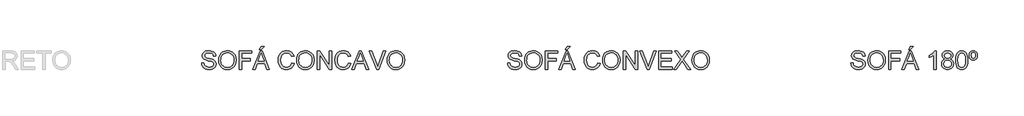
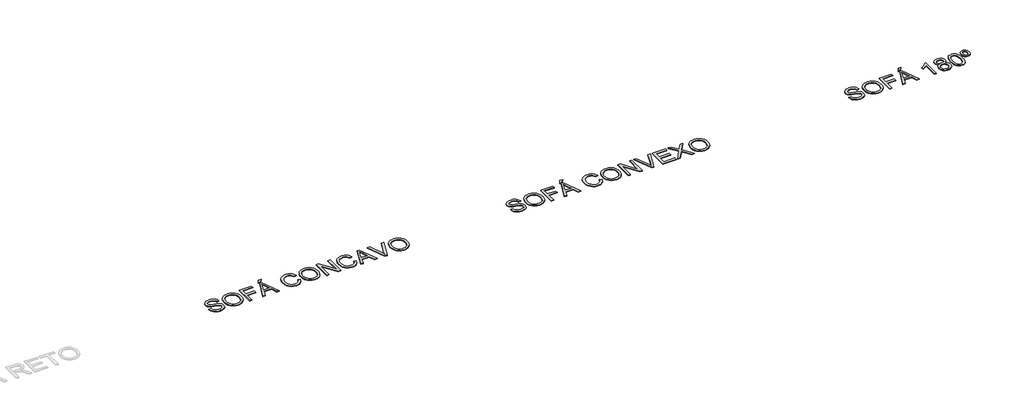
# One storey, part 3 of 4: 3 proxies.
"""IFC4 building model written with IfcOpenShell, lengths in millimetres."""

from ifc_helpers import new_model, si_unit, origin, origin_with_axes, place, context, project, spatial, polyline, outline, extrude, element, save

model = new_model("IFC4")

# Units and contexts
model_context = context("Model", 3, world=origin())
ifc_project = project(units=[si_unit("LENGTHUNIT", "METRE", prefix="MILLI")], contexts=[model_context])

# Site, building, storey
site = spatial("IfcSite", under=ifc_project)
building = spatial("IfcBuilding", under=site)
storey = spatial("IfcBuildingStorey", under=building, Name="Marelli - Linha BLEND - Planta Baixa", Elevation=0.0)

# Proxies
placement = place(None, origin())
element("IfcBuildingElementProxy", 1, Name="300mm Arial", ObjectType="300mm Arial", at=placement, inside=storey, context=model_context, shape_type="SweptSolid", body=[
    extrude(outline(polyline([(-10760.3247924, 5823.0292498), (-10722.6536761, 5823.0292498), (-10718.3310627, 5802.1243554), (-10710.5135703, 5785.3213453), (-10698.3182821, 5771.9856229), (-10680.8622815, 5761.482592), (-10659.5251257, 5754.667578), (-10635.6863724, 5752.3959067), (-10614.6987046, 5754.115755), (-10596.322999, 5759.2753), (-10581.4329752, 5767.4422803), (-10570.9023531, 5778.1844346), (-10564.6391621, 5790.5176784), (-10562.5514318, 5803.4579276), (-10564.1149303, 5816.067083), (-10568.8054257, 5826.9655871), (-10578.3335694, 5836.2638046), (-10594.4100126, 5844.0720999), (-10649.2612181, 5858.4562859), (-10685.2676683, 5867.9752325), (-10708.3062783, 5877.0343267), (-10727.059063, 5889.7078614), (-10740.3488001, 5905.0669347), (-10748.26746, 5922.7804528), (-10750.9070133, 5942.5173218), (-10747.6420606, 5964.5810445), (-10737.8472025, 5985.154845), (-10721.7799564, 6002.5924516), (-10699.6978396, 6015.2475923), (-10673.1919419, 6022.945523), (-10643.8533527, 6025.5114999), (-10612.0683484, 6022.8259614), (-10584.2564695, 6014.7693457), (-10561.4109976, 6001.5071997), (-10544.525214, 5983.2050705), (-10533.8382421, 5961.0033921), (-10529.589205, 5936.0425987), (-10567.2603213, 5936.0425987), (-10574.1765029, 5958.5201886), (-10588.5974771, 5974.7437846), (-10611.1302493, 5984.5662339), (-10642.3818248, 5987.8403836), (-10674.3691642, 5984.6030221), (-10696.3133252, 5974.8909374), (-10709.0052541, 5960.5987219), (-10713.235897, 5943.6209678), (-10710.2376588, 5929.1448113), (-10701.242944, 5917.5013461), (-10679.9793647, 5907.0902857), (-10639.7330744, 5896.458496), (-10598.1991971, 5886.3601352), (-10573.0728569, 5877.5493615), (-10551.5977454, 5863.8825453), (-10536.6157511, 5847.0151559), (-10527.8141744, 5827.131134), (-10524.8803155, 5804.4144208), (-10528.2556328, 5781.1918699), (-10538.3815847, 5759.3488764), (-10554.844304, 5740.5501065), (-10577.2299234, 5726.460226), (-10604.1496884, 5717.6586493), (-10634.2148445, 5714.7247904), (-10671.1226056, 5717.8885756), (-10701.5004614, 5727.379931), (-10725.6978996, 5743.235645), (-10744.0644082, 5765.4925057), (-10755.8550262, 5792.6054088), (-10760.3247924, 5823.0292498)])), origin_with_axes(), (0.0, 0.0, 1.0), 10.0),
    extrude(outline(polyline([(-10482.5003097, 5866.1450196), (-10479.989515, 5901.4938808), (-10472.4571312, 5932.786843), (-10459.9031581, 5960.0239063), (-10442.3275958, 5983.2050705), (-10420.7835064, 6001.7141334), (-10396.3239523, 6014.9348926), (-10368.9489333, 6022.8673481), (-10338.6584495, 6025.5114999), (-10299.1295292, 6020.545093), (-10263.6840989, 6005.6458722), (-10234.2535393, 5981.8623012), (-10212.7692308, 5950.2428437), (-10199.6358436, 5912.31421), (-10195.2580478, 5869.6031104), (-10199.8657698, 5826.3217936), (-10213.6889358, 5787.859731), (-10235.9641906, 5756.1850913), (-10265.9281791, 5733.266043), (-10301.0701067, 5719.3601035), (-10338.8791787, 5714.7247904), (-10379.0151044, 5719.8475472), (-10414.6628697, 5735.2158175), (-10444.019853, 5759.4408469), (-10465.2834323, 5791.1338808), (-10478.1960903, 5827.6001836), (-10482.5003097, 5866.1450196)]), holes=[polyline([(-10444.8291933, 5865.7771376), (-10442.9460974, 5840.8025487), (-10437.2968095, 5818.6330599), (-10427.8813297, 5799.2686714), (-10414.6996579, 5782.7093831), (-10398.6760978, 5769.4472372), (-10380.7349527, 5759.9742758), (-10360.8762228, 5754.290499), (-10339.0999079, 5752.3959067), (-10316.9511126, 5754.3088931), (-10296.8578578, 5760.0478522), (-10278.8201438, 5769.6127841), (-10262.8379703, 5783.0036887), (-10249.7528676, 5799.9124649), (-10240.4063657, 5820.0310115), (-10234.7984645, 5843.3593285), (-10232.9291641, 5869.897416), (-10236.1297375, 5903.2459188), (-10245.7314576, 5932.0694731), (-10261.486004, 5955.641512), (-10283.1450565, 5973.2354684), (-10309.2738752, 5984.1891548), (-10338.4377203, 5987.8403836), (-10359.4575778, 5986.0814478), (-10378.9599221, 5980.8046405), (-10396.9447531, 5972.0099615), (-10413.412071, 5959.697411), (-10427.157062, 5943.2737792), (-10436.9749127, 5922.1458563), (-10442.8656232, 5896.3136425), (-10444.8291933, 5865.7771376)])]), origin_with_axes(), (0.0, 0.0, 1.0), 10.0),
    extrude(outline(polyline([(-10143.4602629, 5719.4336799), (-10143.4602629, 6020.8026104), (-9940.9780128, 6020.8026104), (-9940.9780128, 5983.1314941), (-10105.7891466, 5983.1314941), (-10105.7891466, 5893.6625928), (-9964.5224604, 5893.6625928), (-9964.5224604, 5855.9914765), (-10105.7891466, 5855.9914765), (-10105.7891466, 5719.4336799), (-10143.4602629, 5719.4336799)])), origin_with_axes(), (0.0, 0.0, 1.0), 10.0),
    extrude(outline(polyline([(-9924.2761702, 5719.4336799), (-9803.9787577, 6020.8026104), (-9771.8994478, 6020.8026104), (-9651.6020353, 5719.4336799), (-9691.4068672, 5719.4336799), (-9725.9141984, 5813.6114707), (-9850.0375835, 5813.6114707), (-9884.4713383, 5719.4336799), (-9924.2761702, 5719.4336799)]), holes=[polyline([(-9836.2052205, 5851.282587), (-9739.672985, 5851.282587), (-9766.8226762, 5925.3740208), (-9787.9391028, 5983.1314941), (-9806.7010845, 5931.8487439), (-9836.2052205, 5851.282587)])]), origin_with_axes(), (0.0, 0.0, 1.0), 10.0),
    extrude(outline(polyline([(-9813.8379952, 6039.6381685), (-9785.584658, 6096.144843), (-9738.4957626, 6096.144843), (-9785.584658, 6039.6381685), (-9813.8379952, 6039.6381685)])), origin_with_axes(), (0.0, 0.0, 1.0), 10.0),
    extrude(outline(polyline([(-9281.7334774, 5826.5609169), (-9244.0623611, 5816.8488323), (-9251.51657, 5793.4216469), (-9261.4447854, 5772.9513132), (-9273.8470071, 5755.4378309), (-9288.7232353, 5740.8812003), (-9305.7377776, 5729.4377709), (-9324.5549416, 5721.2638929), (-9345.1747275, 5716.359566), (-9367.5971351, 5714.7247904), (-9411.292319, 5719.6728032), (-9445.9927882, 5734.5168417), (-9472.5906565, 5758.7418711), (-9491.9780376, 5791.8328566), (-9503.8146408, 5830.7363776), (-9507.7601752, 5872.3990135), (-9503.299606, 5916.3425179), (-9489.9178985, 5954.2895457), (-9468.3140283, 5985.0352834), (-9439.1869713, 6007.3749176), (-9404.642852, 6020.9773543), (-9366.7877947, 6025.5114999), (-9325.4838437, 6019.6437821), (-9307.5151075, 6012.3091348), (-9291.3351975, 6002.0406286), (-9277.2108281, 5989.1095765), (-9265.4087139, 5973.7872914), (-9248.7712506, 5935.9690223), (-9286.4423669, 5926.9927016), (-9299.5021778, 5954.4642896), (-9317.3444545, 5973.3090448), (-9340.1899264, 5984.2075489), (-9368.2593227, 5987.8403836), (-9400.6145441, 5983.8120758), (-9427.1940183, 5971.7271522), (-9447.3631487, 5952.8548059), (-9460.4873389, 5928.4642296), (-9467.6886289, 5900.8914741), (-9470.0890589, 5872.4725899), (-9467.2471705, 5837.6709532), (-9458.7215053, 5807.578206), (-9444.1901665, 5783.3439795), (-9423.3312573, 5766.1179051), (-9398.3244787, 5755.8264063), (-9371.3495314, 5752.3959067), (-9339.9048179, 5757.068008), (-9313.7024228, 5771.0843121), (-9293.9195685, 5794.297666), (-9281.7334774, 5826.5609169)])), origin_with_axes(), (0.0, 0.0, 1.0), 10.0),
    extrude(outline(polyline([(-9206.3912448, 5866.1450196), (-9203.8804502, 5901.4938808), (-9196.3480663, 5932.786843), (-9183.7940932, 5960.0239063), (-9166.2185309, 5983.2050705), (-9144.6744416, 6001.7141334), (-9120.2148874, 6014.9348926), (-9092.8398684, 6022.8673481), (-9062.5493847, 6025.5114999), (-9023.0204643, 6020.545093), (-8987.5750341, 6005.6458722), (-8958.1444744, 5981.8623012), (-8936.6601659, 5950.2428437), (-8923.5267787, 5912.31421), (-8919.1489829, 5869.6031104), (-8923.7567049, 5826.3217936), (-8937.5798709, 5787.859731), (-8959.8551257, 5756.1850913), (-8989.8191142, 5733.266043), (-9024.9610418, 5719.3601035), (-9062.7701139, 5714.7247904), (-9102.9060395, 5719.8475472), (-9138.5538049, 5735.2158175), (-9167.9107881, 5759.4408469), (-9189.1743674, 5791.1338808), (-9202.0870254, 5827.6001836), (-9206.3912448, 5866.1450196)]), holes=[polyline([(-9168.7201285, 5865.7771376), (-9166.8370325, 5840.8025487), (-9161.1877446, 5818.6330599), (-9151.7722648, 5799.2686714), (-9138.5905931, 5782.7093831), (-9122.5670329, 5769.4472372), (-9104.6258879, 5759.9742758), (-9084.7671579, 5754.290499), (-9062.9908431, 5752.3959067), (-9040.8420477, 5754.3088931), (-9020.748793, 5760.0478522), (-9002.7110789, 5769.6127841), (-8986.7289055, 5783.0036887), (-8973.6438027, 5799.9124649), (-8964.2973008, 5820.0310115), (-8958.6893996, 5843.3593285), (-8956.8200993, 5869.897416), (-8960.0206726, 5903.2459188), (-8969.6223927, 5932.0694731), (-8985.3769391, 5955.641512), (-9007.0359916, 5973.2354684), (-9033.1648103, 5984.1891548), (-9062.3286555, 5987.8403836), (-9083.348513, 5986.0814478), (-9102.8508572, 5980.8046405), (-9120.8356883, 5972.0099615), (-9137.3030061, 5959.697411), (-9151.0479971, 5943.2737792), (-9160.8658479, 5922.1458563), (-9166.7565583, 5896.3136425), (-9168.7201285, 5865.7771376)])]), origin_with_axes(), (0.0, 0.0, 1.0), 10.0),
    extrude(outline(polyline([(-8867.351198, 5719.4336799), (-8867.351198, 6020.8026104), (-8827.0313314, 6020.8026104), (-8669.5778374, 5782.0471955), (-8669.5778374, 6020.8026104), (-8631.9067211, 6020.8026104), (-8631.9067211, 5719.4336799), (-8672.2265878, 5719.4336799), (-8829.6800817, 5958.2626712), (-8829.6800817, 5719.4336799), (-8867.351198, 5719.4336799)])), origin_with_axes(), (0.0, 0.0, 1.0), 10.0),
    extrude(outline(polyline([(-8354.0822384, 5826.5609169), (-8316.4111221, 5816.8488323), (-8323.865331, 5793.4216469), (-8333.7935463, 5772.9513132), (-8346.1957681, 5755.4378309), (-8361.0719963, 5740.8812003), (-8378.0865385, 5729.4377709), (-8396.9037026, 5721.2638929), (-8417.5234884, 5716.359566), (-8439.945896, 5714.7247904), (-8483.64108, 5719.6728032), (-8518.3415492, 5734.5168417), (-8544.9394175, 5758.7418711), (-8564.3267986, 5791.8328566), (-8576.1634018, 5830.7363776), (-8580.1089362, 5872.3990135), (-8575.648367, 5916.3425179), (-8562.2666594, 5954.2895457), (-8540.6627893, 5985.0352834), (-8511.5357323, 6007.3749176), (-8476.9916129, 6020.9773543), (-8439.1365556, 6025.5114999), (-8397.8326046, 6019.6437821), (-8379.8638684, 6012.3091348), (-8363.6839584, 6002.0406286), (-8349.5595891, 5989.1095765), (-8337.7574748, 5973.7872914), (-8321.1200116, 5935.9690223), (-8358.7911279, 5926.9927016), (-8371.8509387, 5954.4642896), (-8389.6932155, 5973.3090448), (-8412.5386874, 5984.2075489), (-8440.6080836, 5987.8403836), (-8472.9633051, 5983.8120758), (-8499.5427793, 5971.7271522), (-8519.7119096, 5952.8548059), (-8532.8360998, 5928.4642296), (-8540.0373899, 5900.8914741), (-8542.4378199, 5872.4725899), (-8539.5959315, 5837.6709532), (-8531.0702662, 5807.578206), (-8516.5389274, 5783.3439795), (-8495.6800183, 5766.1179051), (-8470.6732397, 5755.8264063), (-8443.6982924, 5752.3959067), (-8412.2535788, 5757.068008), (-8386.0511837, 5771.0843121), (-8366.2683294, 5794.297666), (-8354.0822384, 5826.5609169)])), origin_with_axes(), (0.0, 0.0, 1.0), 10.0),
    extrude(outline(polyline([(-8299.7092795, 5719.4336799), (-8179.411867, 6020.8026104), (-8147.3325571, 6020.8026104), (-8027.0351446, 5719.4336799), (-8066.8399765, 5719.4336799), (-8101.3473077, 5813.6114707), (-8225.4706928, 5813.6114707), (-8259.9044476, 5719.4336799), (-8299.7092795, 5719.4336799)]), holes=[polyline([(-8211.6383298, 5851.282587), (-8115.1060943, 5851.282587), (-8142.2557855, 5925.3740208), (-8163.3722121, 5983.1314941), (-8182.1341938, 5931.8487439), (-8211.6383298, 5851.282587)])]), origin_with_axes(), (0.0, 0.0, 1.0), 10.0),
    extrude(outline(polyline([(-7897.7614115, 5719.4336799), (-8017.690942, 6020.8026104), (-7977.3710753, 6020.8026104), (-7897.0992239, 5803.6786568), (-7880.8388398, 5754.7503515), (-7864.7991848, 5803.6786568), (-7784.3066042, 6020.8026104), (-7743.9867376, 6020.8026104), (-7858.8394965, 5719.4336799), (-7897.7614115, 5719.4336799)])), origin_with_axes(), (0.0, 0.0, 1.0), 10.0),
    extrude(outline(polyline([(-7723.0910402, 5866.1450196), (-7720.5802456, 5901.4938808), (-7713.0478618, 5932.786843), (-7700.4938887, 5960.0239063), (-7682.9183264, 5983.2050705), (-7661.374237, 6001.7141334), (-7636.9146829, 6014.9348926), (-7609.5396639, 6022.8673481), (-7579.2491801, 6025.5114999), (-7539.7202597, 6020.545093), (-7504.2748295, 6005.6458722), (-7474.8442699, 5981.8623012), (-7453.3599614, 5950.2428437), (-7440.2265741, 5912.31421), (-7435.8487784, 5869.6031104), (-7440.4565004, 5826.3217936), (-7454.2796664, 5787.859731), (-7476.5549212, 5756.1850913), (-7506.5189097, 5733.266043), (-7541.6608373, 5719.3601035), (-7579.4699093, 5714.7247904), (-7619.605835, 5719.8475472), (-7655.2536003, 5735.2158175), (-7684.6105835, 5759.4408469), (-7705.8741629, 5791.1338808), (-7718.7868209, 5827.6001836), (-7723.0910402, 5866.1450196)]), holes=[polyline([(-7685.4199239, 5865.7771376), (-7683.536828, 5840.8025487), (-7677.8875401, 5818.6330599), (-7668.4720603, 5799.2686714), (-7655.2903885, 5782.7093831), (-7639.2668284, 5769.4472372), (-7621.3256833, 5759.9742758), (-7601.4669534, 5754.290499), (-7579.6906385, 5752.3959067), (-7557.5418431, 5754.3088931), (-7537.4485884, 5760.0478522), (-7519.4108743, 5769.6127841), (-7503.4287009, 5783.0036887), (-7490.3435982, 5799.9124649), (-7480.9970963, 5820.0310115), (-7475.3891951, 5843.3593285), (-7473.5198947, 5869.897416), (-7476.7204681, 5903.2459188), (-7486.3221881, 5932.0694731), (-7502.0767346, 5955.641512), (-7523.735787, 5973.2354684), (-7549.8646058, 5984.1891548), (-7579.0284509, 5987.8403836), (-7600.0483084, 5986.0814478), (-7619.5506527, 5980.8046405), (-7637.5354837, 5972.0099615), (-7654.0028015, 5959.697411), (-7667.7477926, 5943.2737792), (-7677.5656433, 5922.1458563), (-7683.4563538, 5896.3136425), (-7685.4199239, 5865.7771376)])]), origin_with_axes(), (0.0, 0.0, 1.0), 10.0),
])
element("IfcBuildingElementProxy", 2, Name="300mm Arial", ObjectType="300mm Arial", at=placement, inside=storey, context=model_context, shape_type="SweptSolid", body=[
    extrude(outline(polyline([(-5750.9070133, 5823.0292498), (-5713.235897, 5823.0292498), (-5708.9132836, 5802.1243554), (-5701.0957912, 5785.3213453), (-5688.900503, 5771.9856229), (-5671.4445024, 5761.482592), (-5650.1073467, 5754.667578), (-5626.2685934, 5752.3959067), (-5605.2809255, 5754.115755), (-5586.9052199, 5759.2753), (-5572.0151961, 5767.4422803), (-5561.484574, 5778.1844346), (-5555.221383, 5790.5176784), (-5553.1336527, 5803.4579276), (-5554.6971512, 5816.067083), (-5559.3876466, 5826.9655871), (-5568.9157903, 5836.2638046), (-5584.9922335, 5844.0720999), (-5639.843439, 5858.4562859), (-5675.8498893, 5867.9752325), (-5698.8884992, 5877.0343267), (-5717.6412839, 5889.7078614), (-5730.931021, 5905.0669347), (-5738.8496809, 5922.7804528), (-5741.4892343, 5942.5173218), (-5738.2242815, 5964.5810445), (-5728.4294234, 5985.154845), (-5712.3621773, 6002.5924516), (-5690.2800605, 6015.2475923), (-5663.7741628, 6022.945523), (-5634.4355737, 6025.5114999), (-5602.6505693, 6022.8259614), (-5574.8386904, 6014.7693457), (-5551.9932185, 6001.5071997), (-5535.107435, 5983.2050705), (-5524.420463, 5961.0033921), (-5520.171426, 5936.0425987), (-5557.8425423, 5936.0425987), (-5564.7587238, 5958.5201886), (-5579.179698, 5974.7437846), (-5601.7124702, 5984.5662339), (-5632.9640457, 5987.8403836), (-5664.9513852, 5984.6030221), (-5686.8955462, 5974.8909374), (-5699.587475, 5960.5987219), (-5703.8181179, 5943.6209678), (-5700.8198797, 5929.1448113), (-5691.8251649, 5917.5013461), (-5670.5615856, 5907.0902857), (-5630.3152953, 5896.458496), (-5588.7814181, 5886.3601352), (-5563.6550778, 5877.5493615), (-5542.1799663, 5863.8825453), (-5527.1979721, 5847.0151559), (-5518.3963953, 5827.131134), (-5515.4625364, 5804.4144208), (-5518.8378537, 5781.1918699), (-5528.9638056, 5759.3488764), (-5545.4265249, 5740.5501065), (-5567.8121443, 5726.460226), (-5594.7319093, 5717.6586493), (-5624.7970654, 5714.7247904), (-5661.7048266, 5717.8885756), (-5692.0826823, 5727.379931), (-5716.2801205, 5743.235645), (-5734.6466291, 5765.4925057), (-5746.4372471, 5792.6054088), (-5750.9070133, 5823.0292498)])), origin_with_axes(), (0.0, 0.0, 1.0), 10.0),
    extrude(outline(polyline([(-5473.0825306, 5866.1450196), (-5470.571736, 5901.4938808), (-5463.0393521, 5932.786843), (-5450.485379, 5960.0239063), (-5432.9098167, 5983.2050705), (-5411.3657274, 6001.7141334), (-5386.9061732, 6014.9348926), (-5359.5311542, 6022.8673481), (-5329.2406705, 6025.5114999), (-5289.7117501, 6020.545093), (-5254.2663198, 6005.6458722), (-5224.8357602, 5981.8623012), (-5203.3514517, 5950.2428437), (-5190.2180645, 5912.31421), (-5185.8402687, 5869.6031104), (-5190.4479907, 5826.3217936), (-5204.2711567, 5787.859731), (-5226.5464115, 5756.1850913), (-5256.5104, 5733.266043), (-5291.6523276, 5719.3601035), (-5329.4613997, 5714.7247904), (-5369.5973253, 5719.8475472), (-5405.2450907, 5735.2158175), (-5434.6020739, 5759.4408469), (-5455.8656532, 5791.1338808), (-5468.7783112, 5827.6001836), (-5473.0825306, 5866.1450196)]), holes=[polyline([(-5435.4114143, 5865.7771376), (-5433.5283183, 5840.8025487), (-5427.8790304, 5818.6330599), (-5418.4635506, 5799.2686714), (-5405.2818789, 5782.7093831), (-5389.2583187, 5769.4472372), (-5371.3171737, 5759.9742758), (-5351.4584437, 5754.290499), (-5329.6821289, 5752.3959067), (-5307.5333335, 5754.3088931), (-5287.4400788, 5760.0478522), (-5269.4023647, 5769.6127841), (-5253.4201913, 5783.0036887), (-5240.3350885, 5799.9124649), (-5230.9885866, 5820.0310115), (-5225.3806854, 5843.3593285), (-5223.511385, 5869.897416), (-5226.7119584, 5903.2459188), (-5236.3136785, 5932.0694731), (-5252.0682249, 5955.641512), (-5273.7272774, 5973.2354684), (-5299.8560961, 5984.1891548), (-5329.0199413, 5987.8403836), (-5350.0397988, 5986.0814478), (-5369.542143, 5980.8046405), (-5387.5269741, 5972.0099615), (-5403.9942919, 5959.697411), (-5417.7392829, 5943.2737792), (-5427.5571337, 5922.1458563), (-5433.4478441, 5896.3136425), (-5435.4114143, 5865.7771376)])]), origin_with_axes(), (0.0, 0.0, 1.0), 10.0),
    extrude(outline(polyline([(-5134.0424838, 5719.4336799), (-5134.0424838, 6020.8026104), (-4931.5602337, 6020.8026104), (-4931.5602337, 5983.1314941), (-5096.3713675, 5983.1314941), (-5096.3713675, 5893.6625928), (-4955.1046814, 5893.6625928), (-4955.1046814, 5855.9914765), (-5096.3713675, 5855.9914765), (-5096.3713675, 5719.4336799), (-5134.0424838, 5719.4336799)])), origin_with_axes(), (0.0, 0.0, 1.0), 10.0),
    extrude(outline(polyline([(-4914.8583911, 5719.4336799), (-4794.5609787, 6020.8026104), (-4762.4816687, 6020.8026104), (-4642.1842563, 5719.4336799), (-4681.9890881, 5719.4336799), (-4716.4964193, 5813.6114707), (-4840.6198045, 5813.6114707), (-4875.0535592, 5719.4336799), (-4914.8583911, 5719.4336799)]), holes=[polyline([(-4826.7874414, 5851.282587), (-4730.2552059, 5851.282587), (-4757.4048972, 5925.3740208), (-4778.5213237, 5983.1314941), (-4797.2833054, 5931.8487439), (-4826.7874414, 5851.282587)])]), origin_with_axes(), (0.0, 0.0, 1.0), 10.0),
    extrude(outline(polyline([(-4804.4202161, 6039.6381685), (-4776.1668789, 6096.144843), (-4729.0779835, 6096.144843), (-4776.1668789, 6039.6381685), (-4804.4202161, 6039.6381685)])), origin_with_axes(), (0.0, 0.0, 1.0), 10.0),
    extrude(outline(polyline([(-4272.3156983, 5826.5609169), (-4234.644582, 5816.8488323), (-4242.0987909, 5793.4216469), (-4252.0270063, 5772.9513132), (-4264.429228, 5755.4378309), (-4279.3054562, 5740.8812003), (-4296.3199985, 5729.4377709), (-4315.1371626, 5721.2638929), (-4335.7569484, 5716.359566), (-4358.179356, 5714.7247904), (-4401.87454, 5719.6728032), (-4436.5750092, 5734.5168417), (-4463.1728774, 5758.7418711), (-4482.5602586, 5791.8328566), (-4494.3968618, 5830.7363776), (-4498.3423962, 5872.3990135), (-4493.881827, 5916.3425179), (-4480.5001194, 5954.2895457), (-4458.8962492, 5985.0352834), (-4429.7691923, 6007.3749176), (-4395.2250729, 6020.9773543), (-4357.3700156, 6025.5114999), (-4316.0660646, 6019.6437821), (-4298.0973284, 6012.3091348), (-4281.9174184, 6002.0406286), (-4267.793049, 5989.1095765), (-4255.9909348, 5973.7872914), (-4239.3534716, 5935.9690223), (-4277.0245879, 5926.9927016), (-4290.0843987, 5954.4642896), (-4307.9266755, 5973.3090448), (-4330.7721474, 5984.2075489), (-4358.8415436, 5987.8403836), (-4391.1967651, 5983.8120758), (-4417.7762392, 5971.7271522), (-4437.9453696, 5952.8548059), (-4451.0695598, 5928.4642296), (-4458.2708498, 5900.8914741), (-4460.6712798, 5872.4725899), (-4457.8293914, 5837.6709532), (-4449.3037262, 5807.578206), (-4434.7723874, 5783.3439795), (-4413.9134783, 5766.1179051), (-4388.9066996, 5755.8264063), (-4361.9317523, 5752.3959067), (-4330.4870388, 5757.068008), (-4304.2846437, 5771.0843121), (-4284.5017894, 5794.297666), (-4272.3156983, 5826.5609169)])), origin_with_axes(), (0.0, 0.0, 1.0), 10.0),
    extrude(outline(polyline([(-4196.9734657, 5866.1450196), (-4194.4626711, 5901.4938808), (-4186.9302872, 5932.786843), (-4174.3763142, 5960.0239063), (-4156.8007518, 5983.2050705), (-4135.2566625, 6001.7141334), (-4110.7971083, 6014.9348926), (-4083.4220894, 6022.8673481), (-4053.1316056, 6025.5114999), (-4013.6026852, 6020.545093), (-3978.157255, 6005.6458722), (-3948.7266954, 5981.8623012), (-3927.2423868, 5950.2428437), (-3914.1089996, 5912.31421), (-3909.7312039, 5869.6031104), (-3914.3389259, 5826.3217936), (-3928.1620918, 5787.859731), (-3950.4373466, 5756.1850913), (-3980.4013351, 5733.266043), (-4015.5432627, 5719.3601035), (-4053.3523348, 5714.7247904), (-4093.4882605, 5719.8475472), (-4129.1360258, 5735.2158175), (-4158.493009, 5759.4408469), (-4179.7565883, 5791.1338808), (-4192.6692464, 5827.6001836), (-4196.9734657, 5866.1450196)]), holes=[polyline([(-4159.3023494, 5865.7771376), (-4157.4192534, 5840.8025487), (-4151.7699655, 5818.6330599), (-4142.3544857, 5799.2686714), (-4129.172814, 5782.7093831), (-4113.1492538, 5769.4472372), (-4095.2081088, 5759.9742758), (-4075.3493788, 5754.290499), (-4053.573064, 5752.3959067), (-4031.4242686, 5754.3088931), (-4011.3310139, 5760.0478522), (-3993.2932998, 5769.6127841), (-3977.3111264, 5783.0036887), (-3964.2260237, 5799.9124649), (-3954.8795217, 5820.0310115), (-3949.2716206, 5843.3593285), (-3947.4023202, 5869.897416), (-3950.6028935, 5903.2459188), (-3960.2046136, 5932.0694731), (-3975.9591601, 5955.641512), (-3997.6182125, 5973.2354684), (-4023.7470312, 5984.1891548), (-4052.9108764, 5987.8403836), (-4073.9307339, 5986.0814478), (-4093.4330782, 5980.8046405), (-4111.4179092, 5972.0099615), (-4127.885227, 5959.697411), (-4141.6302181, 5943.2737792), (-4151.4480688, 5922.1458563), (-4157.3387793, 5896.3136425), (-4159.3023494, 5865.7771376)])]), origin_with_axes(), (0.0, 0.0, 1.0), 10.0),
    extrude(outline(polyline([(-3857.933419, 5719.4336799), (-3857.933419, 6020.8026104), (-3817.6135523, 6020.8026104), (-3660.1600583, 5782.0471955), (-3660.1600583, 6020.8026104), (-3622.488942, 6020.8026104), (-3622.488942, 5719.4336799), (-3662.8088087, 5719.4336799), (-3820.2623026, 5958.2626712), (-3820.2623026, 5719.4336799), (-3857.933419, 5719.4336799)])), origin_with_axes(), (0.0, 0.0, 1.0), 10.0),
    extrude(outline(polyline([(-3467.5370457, 5719.4336799), (-3587.4665761, 6020.8026104), (-3547.1467094, 6020.8026104), (-3466.8748581, 5803.6786568), (-3450.6144739, 5754.7503515), (-3434.5748189, 5803.6786568), (-3354.0822384, 6020.8026104), (-3313.7623717, 6020.8026104), (-3428.6151306, 5719.4336799), (-3467.5370457, 5719.4336799)])), origin_with_axes(), (0.0, 0.0, 1.0), 10.0),
    extrude(outline(polyline([(-3278.7400057, 5719.4336799), (-3278.7400057, 6020.8026104), (-3062.131087, 6020.8026104), (-3062.131087, 5983.1314941), (-3241.0688894, 5983.1314941), (-3241.0688894, 5893.6625928), (-3071.5488661, 5893.6625928), (-3071.5488661, 5855.9914765), (-3241.0688894, 5855.9914765), (-3241.0688894, 5757.1047962), (-3057.4221974, 5757.1047962), (-3057.4221974, 5719.4336799), (-3278.7400057, 5719.4336799)])), origin_with_axes(), (0.0, 0.0, 1.0), 10.0),
    extrude(outline(polyline([(-3033.8777498, 5719.4336799), (-2917.7006157, 5883.6562026), (-3015.0421916, 6020.8026104), (-2969.8662826, 6020.8026104), (-2915.0518653, 5943.6209678), (-2896.5841892, 5913.5282206), (-2874.9527278, 5944.1360026), (-2820.7269217, 6020.8026104), (-2774.8888252, 6020.8026104), (-2872.2304011, 5883.2147442), (-2756.053267, 5719.4336799), (-2801.229176, 5719.4336799), (-2878.6315478, 5828.6210561), (-2894.7447792, 5851.282587), (-2912.4766913, 5826.4137641), (-2988.0396532, 5719.4336799), (-3033.8777498, 5719.4336799)])), origin_with_axes(), (0.0, 0.0, 1.0), 10.0),
    extrude(outline(polyline([(-2732.5088193, 5866.1450196), (-2729.9980247, 5901.4938808), (-2722.4656408, 5932.786843), (-2709.9116678, 5960.0239063), (-2692.3361054, 5983.2050705), (-2670.7920161, 6001.7141334), (-2646.3324619, 6014.9348926), (-2618.957443, 6022.8673481), (-2588.6669592, 6025.5114999), (-2549.1380388, 6020.545093), (-2513.6926086, 6005.6458722), (-2484.262049, 5981.8623012), (-2462.7777404, 5950.2428437), (-2449.6443532, 5912.31421), (-2445.2665575, 5869.6031104), (-2449.8742795, 5826.3217936), (-2463.6974454, 5787.859731), (-2485.9727002, 5756.1850913), (-2515.9366887, 5733.266043), (-2551.0786163, 5719.3601035), (-2588.8876884, 5714.7247904), (-2629.0236141, 5719.8475472), (-2664.6713794, 5735.2158175), (-2694.0283626, 5759.4408469), (-2715.2919419, 5791.1338808), (-2728.2046, 5827.6001836), (-2732.5088193, 5866.1450196)]), holes=[polyline([(-2694.837703, 5865.7771376), (-2692.954607, 5840.8025487), (-2687.3053191, 5818.6330599), (-2677.8898393, 5799.2686714), (-2664.7081676, 5782.7093831), (-2648.6846074, 5769.4472372), (-2630.7434624, 5759.9742758), (-2610.8847324, 5754.290499), (-2589.1084176, 5752.3959067), (-2566.9596222, 5754.3088931), (-2546.8663675, 5760.0478522), (-2528.8286534, 5769.6127841), (-2512.84648, 5783.0036887), (-2499.7613773, 5799.9124649), (-2490.4148753, 5820.0310115), (-2484.8069742, 5843.3593285), (-2482.9376738, 5869.897416), (-2486.1382471, 5903.2459188), (-2495.7399672, 5932.0694731), (-2511.4945137, 5955.641512), (-2533.1535661, 5973.2354684), (-2559.2823848, 5984.1891548), (-2588.44623, 5987.8403836), (-2609.4660875, 5986.0814478), (-2628.9684318, 5980.8046405), (-2646.9532628, 5972.0099615), (-2663.4205806, 5959.697411), (-2677.1655717, 5943.2737792), (-2686.9834224, 5922.1458563), (-2692.8741329, 5896.3136425), (-2694.837703, 5865.7771376)])]), origin_with_axes(), (0.0, 0.0, 1.0), 10.0),
])
element("IfcBuildingElementProxy", 3, Name="300mm Arial", ObjectType="300mm Arial", at=placement, inside=storey, context=model_context, shape_type="SweptSolid", body=[
    extrude(outline(polyline([(-129.3335943, 5823.0292498), (-91.662478, 5823.0292498), (-87.3398645, 5802.1243554), (-79.5223721, 5785.3213453), (-67.327084, 5771.9856229), (-49.8710833, 5761.482592), (-28.5339276, 5754.667578), (-4.6951743, 5752.3959067), (16.2924935, 5754.115755), (34.6681992, 5759.2753), (49.5582229, 5767.4422803), (60.088845, 5778.1844346), (66.352036, 5790.5176784), (68.4397663, 5803.4579276), (66.8762678, 5816.067083), (62.1857724, 5826.9655871), (52.6576287, 5836.2638046), (36.5811855, 5844.0720999), (-18.2700199, 5858.4562859), (-54.2764702, 5867.9752325), (-77.3150802, 5877.0343267), (-96.0678649, 5889.7078614), (-109.3576019, 5905.0669347), (-117.2762619, 5922.7804528), (-119.9158152, 5942.5173218), (-116.6508625, 5964.5810445), (-106.8560044, 5985.154845), (-90.7887582, 6002.5924516), (-68.7066415, 6015.2475923), (-42.2007437, 6022.945523), (-12.8621546, 6025.5114999), (18.9228498, 6022.8259614), (46.7347286, 6014.7693457), (69.5802005, 6001.5071997), (86.4659841, 5983.2050705), (97.152956, 5961.0033921), (101.4019931, 5936.0425987), (63.7308768, 5936.0425987), (56.8146953, 5958.5201886), (42.3937211, 5974.7437846), (19.8609489, 5984.5662339), (-11.3906266, 5987.8403836), (-43.3779661, 5984.6030221), (-65.3221271, 5974.8909374), (-78.014056, 5960.5987219), (-82.2446989, 5943.6209678), (-79.2464606, 5929.1448113), (-70.2517459, 5917.5013461), (-48.9881665, 5907.0902857), (-8.7418763, 5896.458496), (32.792001, 5886.3601352), (57.9183413, 5877.5493615), (79.3934527, 5863.8825453), (94.375447, 5847.0151559), (103.1770237, 5827.131134), (106.1108826, 5804.4144208), (102.7355653, 5781.1918699), (92.6096134, 5759.3488764), (76.1468941, 5740.5501065), (53.7612747, 5726.460226), (26.8415097, 5717.6586493), (-3.2236463, 5714.7247904), (-40.1314075, 5717.8885756), (-70.5092633, 5727.379931), (-94.7067015, 5743.235645), (-113.0732101, 5765.4925057), (-124.863828, 5792.6054088), (-129.3335943, 5823.0292498)])), origin_with_axes(), (0.0, 0.0, 1.0), 10.0),
    extrude(outline(polyline([(148.4908885, 5866.1450196), (151.0016831, 5901.4938808), (158.5340669, 5932.786843), (171.08804, 5960.0239063), (188.6636023, 5983.2050705), (210.2076917, 6001.7141334), (234.6672458, 6014.9348926), (262.0422648, 6022.8673481), (292.3327486, 6025.5114999), (331.861669, 6020.545093), (367.3070992, 6005.6458722), (396.7376588, 5981.8623012), (418.2219673, 5950.2428437), (431.3553546, 5912.31421), (435.7331503, 5869.6031104), (431.1254283, 5826.3217936), (417.3022624, 5787.859731), (395.0270075, 5756.1850913), (365.063019, 5733.266043), (329.9210914, 5719.3601035), (292.1120194, 5714.7247904), (251.9760937, 5719.8475472), (216.3283284, 5735.2158175), (186.9713452, 5759.4408469), (165.7077659, 5791.1338808), (152.7951078, 5827.6001836), (148.4908885, 5866.1450196)]), holes=[polyline([(186.1620048, 5865.7771376), (188.0451007, 5840.8025487), (193.6943886, 5818.6330599), (203.1098684, 5799.2686714), (216.2915402, 5782.7093831), (232.3151003, 5769.4472372), (250.2562454, 5759.9742758), (270.1149753, 5754.290499), (291.8912902, 5752.3959067), (314.0400856, 5754.3088931), (334.1333403, 5760.0478522), (352.1710544, 5769.6127841), (368.1532278, 5783.0036887), (381.2383305, 5799.9124649), (390.5848325, 5820.0310115), (396.1927336, 5843.3593285), (398.062034, 5869.897416), (394.8614606, 5903.2459188), (385.2597406, 5932.0694731), (369.5051941, 5955.641512), (347.8461417, 5973.2354684), (321.717323, 5984.1891548), (292.5534778, 5987.8403836), (271.5336203, 5986.0814478), (252.031276, 5980.8046405), (234.046445, 5972.0099615), (217.5791272, 5959.697411), (203.8341361, 5943.2737792), (194.0162854, 5922.1458563), (188.1255749, 5896.3136425), (186.1620048, 5865.7771376)])]), origin_with_axes(), (0.0, 0.0, 1.0), 10.0),
    extrude(outline(polyline([(487.5309352, 5719.4336799), (487.5309352, 6020.8026104), (690.0131854, 6020.8026104), (690.0131854, 5983.1314941), (525.2020515, 5983.1314941), (525.2020515, 5893.6625928), (666.4687377, 5893.6625928), (666.4687377, 5855.9914765), (525.2020515, 5855.9914765), (525.2020515, 5719.4336799), (487.5309352, 5719.4336799)])), origin_with_axes(), (0.0, 0.0, 1.0), 10.0),
    extrude(outline(polyline([(706.715028, 5719.4336799), (827.0124404, 6020.8026104), (859.0917504, 6020.8026104), (979.3891628, 5719.4336799), (939.5843309, 5719.4336799), (905.0769998, 5813.6114707), (780.9536146, 5813.6114707), (746.5198598, 5719.4336799), (706.715028, 5719.4336799)]), holes=[polyline([(794.7859776, 5851.282587), (891.3182131, 5851.282587), (864.1685219, 5925.3740208), (843.0520954, 5983.1314941), (824.2901136, 5931.8487439), (794.7859776, 5851.282587)])]), origin_with_axes(), (0.0, 0.0, 1.0), 10.0),
    extrude(outline(polyline([(817.1532029, 6039.6381685), (845.4065401, 6096.144843), (892.4954355, 6096.144843), (845.4065401, 6039.6381685), (817.1532029, 6039.6381685)])), origin_with_axes(), (0.0, 0.0, 1.0), 10.0),
    extrude(outline(polyline([(1264.497709, 5719.4336799), (1226.8265927, 5719.4336799), (1226.8265927, 5954.2895457), (1191.1420392, 5928.8688998), (1151.4843601, 5909.8494006), (1151.4843601, 5945.4603778), (1181.0712696, 5961.5552151), (1206.7034476, 5980.7034729), (1226.9093662, 6001.0657413), (1240.2174974, 6020.8026104), (1264.497709, 6020.8026104), (1264.497709, 5719.4336799)])), origin_with_axes(), (0.0, 0.0, 1.0), 10.0),
    extrude(outline(polyline([(1408.854604, 5885.4220362), (1388.6854736, 5895.35485), (1374.5312138, 5908.819331), (1366.1710955, 5925.5395677), (1363.3843893, 5945.2396486), (1364.9019026, 5960.6033204), (1369.4544423, 5974.6886023), (1377.0420084, 5987.4954942), (1387.664601, 5999.0239963), (1400.8117838, 6008.5521399), (1415.9731206, 6015.3579569), (1452.3382558, 6020.8026104), (1488.9241202, 6015.2291982), (1504.2510038, 6008.2624329), (1517.6005217, 5998.5089615), (1528.4162524, 5986.7551317), (1536.1417743, 5973.7872914), (1540.7770874, 5959.6054405), (1542.3221918, 5944.209579), (1539.5722739, 5925.1440946), (1531.3225201, 5908.7089665), (1517.4809601, 5895.3272589), (1497.9556232, 5885.4220362), (1521.1413859, 5873.4750684), (1538.0179725, 5855.8811119), (1548.3094713, 5833.4862955), (1551.7399709, 5807.1367476), (1550.0385167, 5788.3471747), (1544.934154, 5771.1211003), (1536.4268828, 5755.4585243), (1524.5167032, 5741.3594468), (1509.8290146, 5729.7067846), (1492.9892162, 5721.3834545), (1473.9973082, 5716.3894564), (1452.8532906, 5714.7247904), (1431.7092729, 5716.3963542), (1412.7173649, 5721.4110457), (1395.8775666, 5729.7688647), (1381.1898779, 5741.4698114), (1369.2796983, 5755.6677572), (1360.7724272, 5771.5165734), (1355.6680645, 5789.0162601), (1353.9666103, 5808.1668172), (1357.5350656, 5835.5372376), (1368.2404317, 5858.0516157), (1385.5308855, 5874.9373993), (1408.854604, 5885.4220362)]), holes=[polyline([(1391.6377266, 5809.4911924), (1397.9285087, 5781.1274905), (1406.6381149, 5768.9597935), (1420.1853694, 5759.9006994), (1436.4089654, 5754.2721049), (1453.1475962, 5752.3959067), (1478.7889712, 5756.3414411), (1498.0291996, 5768.1780443), (1510.0589408, 5786.1030945), (1514.0688546, 5808.31397), (1509.9301821, 5830.9019245), (1497.5141648, 5849.2224478), (1477.832478, 5861.3625537), (1451.8967974, 5865.4092556), (1426.6141073, 5861.417736), (1407.567017, 5849.443177), (1395.6200492, 5831.4721416), (1391.6377266, 5809.4911924)]), polyline([(1401.0555057, 5944.1360026), (1404.3940348, 5927.6916774), (1414.4096221, 5914.5582902), (1430.807962, 5905.9498515), (1453.294749, 5903.0803719), (1475.2573041, 5905.9314574), (1491.4073237, 5914.4847138), (1501.3401375, 5927.1766426), (1504.6510755, 5942.4437454), (1501.2297729, 5958.2902624), (1490.9658653, 5971.3960584), (1474.5951165, 5980.1976352), (1452.8532906, 5983.1314941), (1430.9735089, 5980.2620145), (1414.6303513, 5971.6535758), (1404.4492171, 5959.0352234), (1401.0555057, 5944.1360026)])]), origin_with_axes(), (0.0, 0.0, 1.0), 10.0),
    extrude(outline(polyline([(1584.7021976, 5867.690124), (1587.4705097, 5915.9286506), (1595.7754457, 5954.3999103), (1609.5342323, 5983.6925141), (1628.6640961, 6004.3950734), (1653.3029927, 6016.7007261), (1683.5888779, 6020.8026104), (1706.8022318, 6018.3745892), (1727.5875646, 6011.0905257), (1744.9699888, 5999.2355284), (1757.9746174, 5983.0947059), (1767.7970666, 5962.8060138), (1775.6329531, 5938.5074081), (1780.764907, 5907.6513057), (1782.4755583, 5867.690124), (1779.7348374, 5819.7275089), (1771.5126748, 5781.3482197), (1757.8366616, 5752.0280247), (1738.734389, 5731.242692), (1714.0403101, 5718.8542658), (1683.5888779, 5714.7247904), (1662.8403334, 5716.5182151), (1644.4462337, 5721.8984893), (1628.4065787, 5730.8656129), (1614.7213685, 5743.419586), (1601.5879812, 5766.1133066), (1592.2069903, 5794.3896364), (1586.5783958, 5828.2485756), (1584.7021976, 5867.690124)]), holes=[polyline([(1622.373314, 5867.7637004), (1626.7878979, 5808.507108), (1632.3061278, 5788.2391093), (1640.0316497, 5774.211309), (1659.7501247, 5757.8497573), (1683.5888779, 5752.3959067), (1707.4276312, 5757.8681514), (1727.1461062, 5774.2848854), (1734.8716281, 5788.3356784), (1740.389858, 5808.5990785), (1744.8044419, 5867.7637004), (1740.5370108, 5925.6867205), (1735.2027219, 5945.8880406), (1727.7347174, 5960.249234), (1708.0530306, 5977.410929), (1683.1474196, 5983.1314941), (1659.5661837, 5978.0915107), (1640.6202609, 5962.9715607), (1632.6372216, 5947.3365759), (1626.9350507, 5926.2569376), (1622.373314, 5867.7637004)])]), origin_with_axes(), (0.0, 0.0, 1.0), 10.0),
    extrude(outline(polyline([(1874.2989042, 6025.5114999), (1901.6877188, 6020.3427579), (1923.5215152, 6004.8365318), (1937.8137307, 5980.2252263), (1942.5778026, 5947.7412461), (1937.7861396, 5915.3676306), (1923.4111506, 5890.7931133), (1901.6049453, 5875.2868872), (1874.5196334, 5870.1181452), (1847.1032278, 5875.1857196), (1825.1866579, 5890.3884431), (1810.8116689, 5914.6410636), (1806.0200059, 5946.8583294), (1810.7840778, 5980.0044971), (1825.0762933, 6004.8365318), (1846.9100897, 6020.3427579), (1874.2989042, 6025.5114999)]), holes=[polyline([(1874.2989042, 5997.2581627), (1861.8736899, 5994.361092), (1852.1156199, 5985.6698798), (1845.7972467, 5970.4119741), (1843.6911223, 5947.8148225), (1845.8340349, 5925.6315382), (1852.2627727, 5910.290859), (1862.0576309, 5901.3513265), (1874.2989042, 5898.3714824), (1886.6321481, 5901.3513265), (1896.4086122, 5910.290859), (1902.7821677, 5925.8890556), (1904.9066862, 5948.8448921), (1902.7637736, 5970.39358), (1896.3350358, 5985.4491506), (1886.5401776, 5994.3059097), (1874.2989042, 5997.2581627)])]), origin_with_axes(), (0.0, 0.0, 1.0), 10.0),
])

save(model, "model.ifc")
